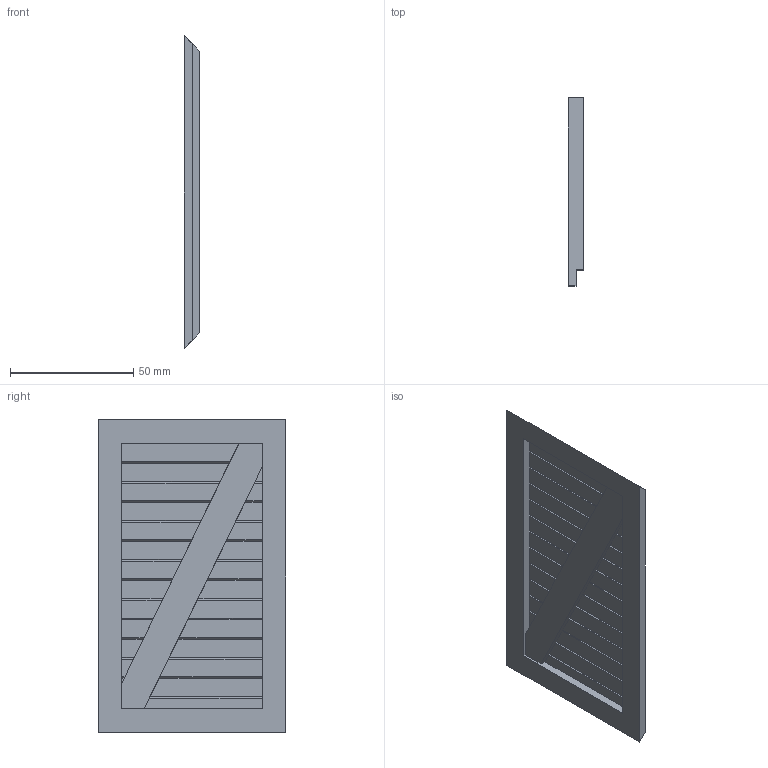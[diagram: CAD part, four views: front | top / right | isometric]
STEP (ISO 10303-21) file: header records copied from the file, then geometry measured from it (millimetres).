
FILE_DESCRIPTION (( 'STEP AP203' ), '1' );
FILE_NAME ('Box Side.STEP', '2018-02-28T19:18:20', ( '' ), ( '' ), 'SwSTEP 2.0', 'SolidWorks 2015', '' );
FILE_SCHEMA (( 'CONFIG_CONTROL_DESIGN' ));
Length unit declared in the file: inch
Products named in the file (1): Box Side
Bounding box: 6.35 x 76.2 x 127 mm (x, y, z)
Volume: 39471.7 mm3; surface area: 23149.4 mm2
Topology: 1 solids, 1 shells, 89 faces, 258 edges, 172 vertices
Faces by surface type: plane 89
Entity records: 2951 total; most frequent: CARTESIAN_POINT 520, ORIENTED_EDGE 516, DIRECTION 438, VECTOR 258, EDGE_CURVE 258, LINE 258, VERTEX_POINT 172, AXIS2_PLACEMENT_3D 90
